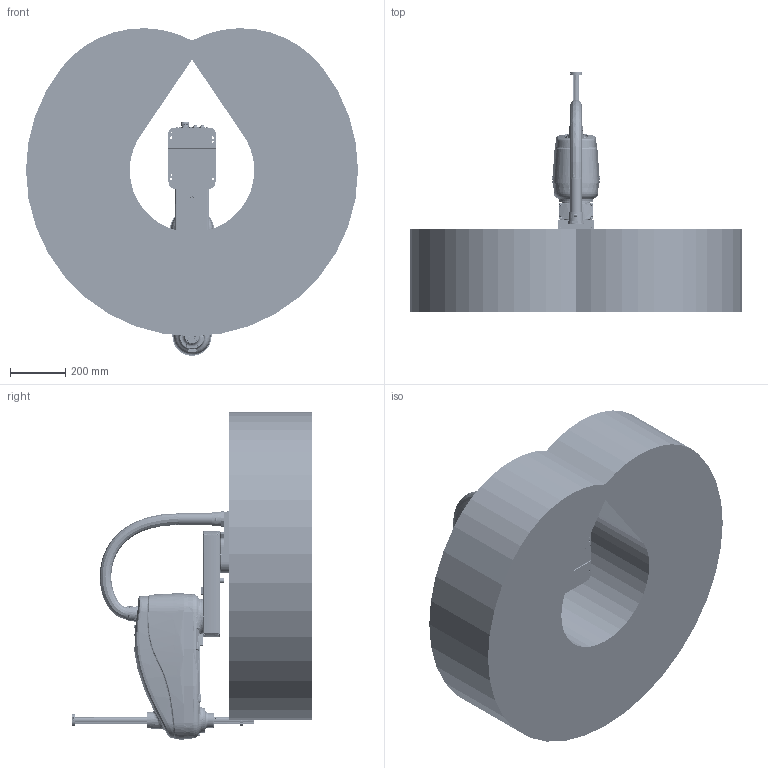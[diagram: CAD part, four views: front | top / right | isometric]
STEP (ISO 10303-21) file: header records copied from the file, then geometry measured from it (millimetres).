
FILE_DESCRIPTION (( 'STEP AP214' ), '1' );
FILE_NAME ('CRP-RS06-10Z40.STEP', '2026-05-11T01:52:28', ( 'Windows User' ), ( 'P R C' ), 'SwSTEP 2.0', 'SolidWorks 2021', '' );
FILE_SCHEMA (( 'AUTOMOTIVE_DESIGN' ));
Length unit declared in the file: millimetre
Products named in the file (8): RS0610-02 J2; 萇擢^Harness_1-CRP-RS06-10Z30; RS0810-04 J4-660; CRP-RS06-10Z40; Harness_1-CRP-RS06-10Z30; RS0810-01 J1; 錨璃5^CRP-RS06-10Z40; RS0810-03 J3
Assembly tree (7 placements, depth 3):
  CRP-RS06-10Z40
    RS0810-01 J1
    RS0610-02 J2
    RS0810-03 J3
    Harness_1-CRP-RS06-10Z30
      萇擢^Harness_1-CRP-RS06-10Z30
    錨璃5^CRP-RS06-10Z40
    RS0810-04 J4-660
Bounding box: 1200 x 870.93 x 1184 mm (x, y, z)
Volume: 294210207.3 mm3; surface area: 4516774 mm2
Topology: 9 solids, 78 shells, 8608 faces, 22702 edges, 14685 vertices
Faces by surface type: plane 4450, bspline 2101, cylinder 1300, cone 617, torus 132, sphere 8
Entity records: 428799 total; most frequent: CARTESIAN_POINT 181870, ORIENTED_EDGE 45144, DIRECTION 34978, EDGE_CURVE 22572, VERTEX_POINT 14673, LINE 13164, VECTOR 13164, AXIS2_PLACEMENT_3D 10907
